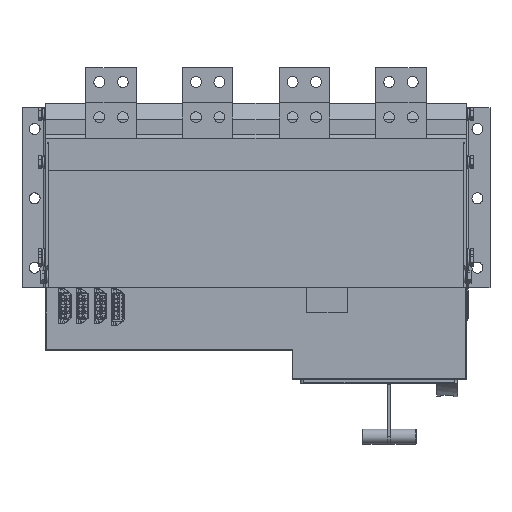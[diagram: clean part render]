
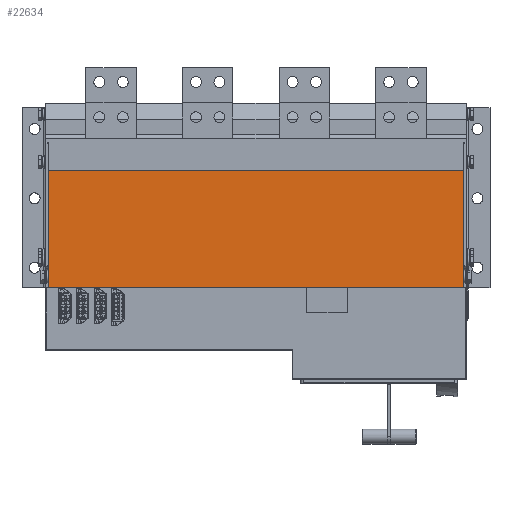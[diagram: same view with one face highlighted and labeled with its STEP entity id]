
A CAD part, top view. The second image highlights one B-rep face of the part: STEP entity #22634.
In plain terms, the highlighted planar face has unit normal (0, 0, 1).
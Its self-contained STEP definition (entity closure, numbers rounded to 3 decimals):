
#2857 = VECTOR ( 'NONE', #118470, 1000. ) ;
#3394 = CARTESIAN_POINT ( 'NONE',  ( 0., 494., 224.963 ) ) ;
#4011 = AXIS2_PLACEMENT_3D ( 'NONE', #171860, #175619, #43508 ) ;
#18758 = LINE ( 'NONE', #164179, #125219 ) ;
#19517 = CARTESIAN_POINT ( 'NONE',  ( 173.662, 494., 224.963 ) ) ;
#22634 = ADVANCED_FACE ( 'NONE', ( #144297 ), #44439, .T. ) ;
#33811 = LINE ( 'NONE', #3394, #2857 ) ;
#43508 = DIRECTION ( 'NONE',  ( 1., 0., 0. ) ) ;
#44439 = PLANE ( 'NONE',  #4011 ) ;
#45568 = CARTESIAN_POINT ( 'NONE',  ( 173.662, 0., 224.963 ) ) ;
#56852 = VERTEX_POINT ( 'NONE', #19517 ) ;
#60048 = CARTESIAN_POINT ( 'NONE',  ( 173.662, 0., 224.963 ) ) ;
#60650 = EDGE_LOOP ( 'NONE', ( #180901, #133626, #154517, #134724 ) ) ;
#62668 = EDGE_CURVE ( 'NONE', #172126, #170237, #18758, .T. ) ;
#82235 = CARTESIAN_POINT ( 'NONE',  ( 33.662, 0., 224.963 ) ) ;
#87118 = EDGE_CURVE ( 'NONE', #56852, #133883, #101887, .T. ) ;
#88076 = CARTESIAN_POINT ( 'NONE',  ( 0., 0., 224.963 ) ) ;
#101887 = LINE ( 'NONE', #60048, #182248 ) ;
#113756 = CARTESIAN_POINT ( 'NONE',  ( 33.662, 494., 224.963 ) ) ;
#118470 = DIRECTION ( 'NONE',  ( 1., 0., 0. ) ) ;
#125219 = VECTOR ( 'NONE', #132862, 1000. ) ;
#132862 = DIRECTION ( 'NONE',  ( 0., -1., 0. ) ) ;
#133626 = ORIENTED_EDGE ( 'NONE', *, *, #181268, .F. ) ;
#133883 = VERTEX_POINT ( 'NONE', #45568 ) ;
#134724 = ORIENTED_EDGE ( 'NONE', *, *, #187330, .T. ) ;
#144297 = FACE_OUTER_BOUND ( 'NONE', #60650, .T. ) ;
#154517 = ORIENTED_EDGE ( 'NONE', *, *, #62668, .T. ) ;
#160822 = DIRECTION ( 'NONE',  ( 0., -1., 0. ) ) ;
#164179 = CARTESIAN_POINT ( 'NONE',  ( 33.662, 0., 224.963 ) ) ;
#170237 = VERTEX_POINT ( 'NONE', #82235 ) ;
#171860 = CARTESIAN_POINT ( 'NONE',  ( 33.662, 0., 224.963 ) ) ;
#172126 = VERTEX_POINT ( 'NONE', #113756 ) ;
#175555 = LINE ( 'NONE', #88076, #181173 ) ;
#175619 = DIRECTION ( 'NONE',  ( 0., 0., 1. ) ) ;
#176470 = DIRECTION ( 'NONE',  ( 1., 0., 0. ) ) ;
#180901 = ORIENTED_EDGE ( 'NONE', *, *, #87118, .F. ) ;
#181173 = VECTOR ( 'NONE', #176470, 1000. ) ;
#181268 = EDGE_CURVE ( 'NONE', #172126, #56852, #33811, .T. ) ;
#182248 = VECTOR ( 'NONE', #160822, 1000. ) ;
#187330 = EDGE_CURVE ( 'NONE', #170237, #133883, #175555, .T. ) ;
